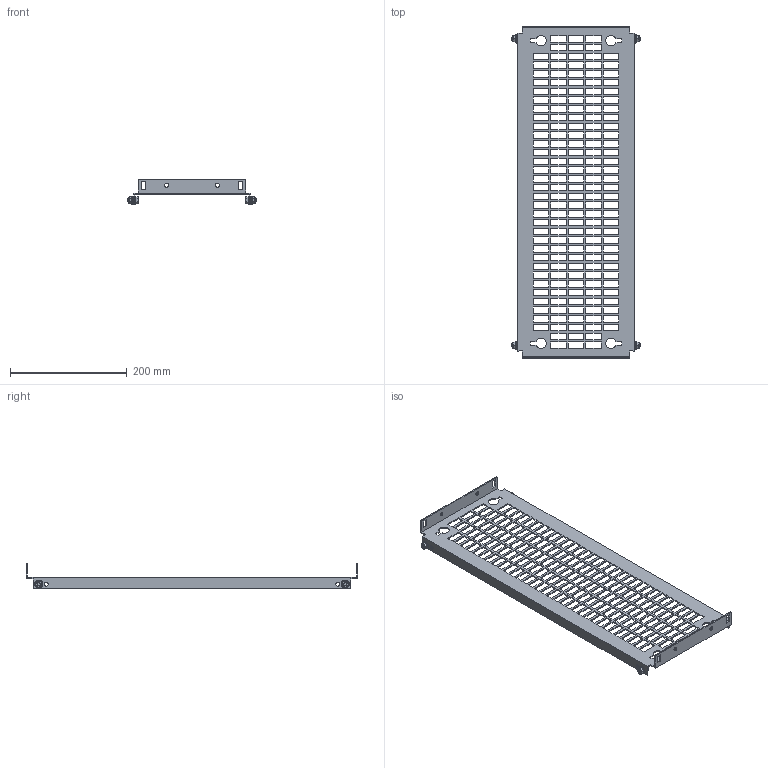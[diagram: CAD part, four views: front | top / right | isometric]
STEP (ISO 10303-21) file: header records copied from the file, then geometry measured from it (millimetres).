
FILE_DESCRIPTION(('Open CASCADE Model'),'2;1');
FILE_NAME('Open CASCADE Shape Model','2025-02-19T16:48:16',('Author'),( 'Open CASCADE'),'Open CASCADE STEP processor 7.8','Open CASCADE 7.8' ,'Unknown');
FILE_SCHEMA(('AUTOMOTIVE_DESIGN { 1 0 10303 214 1 1 1 1 }'));
Length unit declared in the file: millimetre
Products named in the file (4): Compound1; Solid1; Solid2; Solid3
Assembly tree (9 placements, depth 2):
  Compound1
    Solid1
    Solid2  x4
    Solid3  x4
Bounding box: 220 x 569 x 43 mm (x, y, z)
Volume: 184870.2 mm3; surface area: 214369.8 mm2
Topology: 9 solids, 9 shells, 978 faces, 2762 edges, 1806 vertices
Faces by surface type: plane 822, cone 68, bspline 48, cylinder 28, torus 12
Full cylindrical faces by diameter (mm): 5 x4, 6 x8, 7 x12
Entity records: 28096 total; most frequent: CARTESIAN_POINT 5455, ORIENTED_EDGE 4846, DIRECTION 4048, EDGE_CURVE 2423, LINE 2272, VECTOR 2272, VERTEX_POINT 1608, FACE_BOUND 1209
